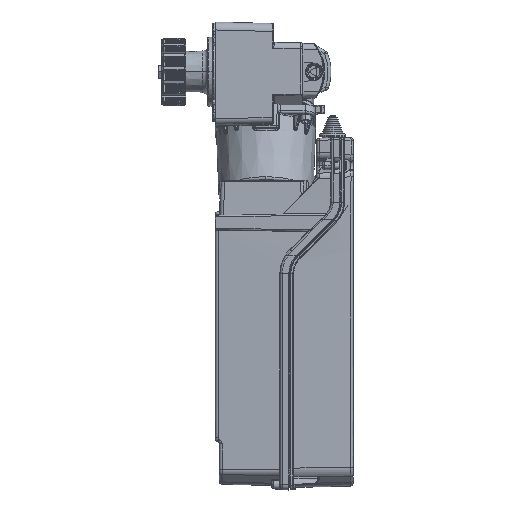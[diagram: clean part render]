
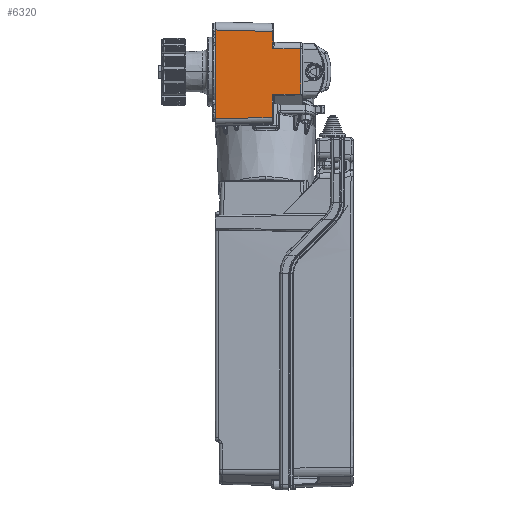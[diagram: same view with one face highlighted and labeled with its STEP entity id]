
A CAD part, left-side view. The second image highlights one B-rep face of the part: STEP entity #6320.
In plain terms, the highlighted planar face has unit normal (-0.999, -0.035, 0).
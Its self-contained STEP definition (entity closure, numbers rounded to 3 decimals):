
#3425 = DIRECTION ( 'NONE',  ( 0., 0., -1. ) ) ;
#5856 = EDGE_CURVE ( 'NONE', #159637, #173403, #78008, .T. ) ;
#6320 = ADVANCED_FACE ( 'NONE', ( #43030 ), #44816, .F. ) ;
#8603 = CARTESIAN_POINT ( 'NONE',  ( -61.471, -58.094, -23.091 ) ) ;
#8610 = EDGE_CURVE ( 'NONE', #105720, #99739, #140917, .T. ) ;
#9991 = VERTEX_POINT ( 'NONE', #177665 ) ;
#10402 = CARTESIAN_POINT ( 'NONE',  ( -61.486, -57.68, -23.576 ) ) ;
#15674 = CARTESIAN_POINT ( 'NONE',  ( -63.5, 0., 60. ) ) ;
#17818 = CARTESIAN_POINT ( 'NONE',  ( -61.416, -59.691, -22.479 ) ) ;
#17853 = VECTOR ( 'NONE', #169090, 1000. ) ;
#18052 = LINE ( 'NONE', #45386, #50853 ) ;
#19988 = DIRECTION ( 'NONE',  ( 0.035, -0.999, -0.026 ) ) ;
#20372 = VERTEX_POINT ( 'NONE', #138675 ) ;
#21433 = CARTESIAN_POINT ( 'NONE',  ( -61.501, -57.235, -25.14 ) ) ;
#23983 = AXIS2_PLACEMENT_3D ( 'NONE', #15674, #100423, #124156 ) ;
#24128 = VECTOR ( 'NONE', #61401, 1000. ) ;
#28882 = DIRECTION ( 'NONE',  ( 0., 0., -1. ) ) ;
#30630 = CARTESIAN_POINT ( 'NONE',  ( -61.42, -59.565, -22.482 ) ) ;
#32301 = LINE ( 'NONE', #102447, #24128 ) ;
#32496 = EDGE_CURVE ( 'NONE', #173403, #160345, #139989, .T. ) ;
#33628 = CARTESIAN_POINT ( 'NONE',  ( -63.5, 0., -46.875 ) ) ;
#34746 = VECTOR ( 'NONE', #19988, 1000. ) ;
#37462 = CARTESIAN_POINT ( 'NONE',  ( -61.416, -59.691, -22.479 ) ) ;
#37540 = CARTESIAN_POINT ( 'NONE',  ( -61.501, -57.235, -46.067 ) ) ;
#37660 = EDGE_CURVE ( 'NONE', #20372, #42325, #32301, .T. ) ;
#42325 = VERTEX_POINT ( 'NONE', #37540 ) ;
#43030 = FACE_OUTER_BOUND ( 'NONE', #178492, .T. ) ;
#44092 = VECTOR ( 'NONE', #119934, 1000. ) ;
#44816 = PLANE ( 'NONE',  #23983 ) ;
#45386 = CARTESIAN_POINT ( 'NONE',  ( -63.5, 0., -80. ) ) ;
#50853 = VECTOR ( 'NONE', #3425, 1000. ) ;
#53933 = EDGE_CURVE ( 'NONE', #160345, #9991, #153380, .T. ) ;
#54062 = EDGE_CURVE ( 'NONE', #9991, #20372, #144671, .T. ) ;
#56331 = EDGE_CURVE ( 'NONE', #42325, #119215, #119476, .T. ) ;
#57616 = EDGE_CURVE ( 'NONE', #82284, #105720, #90158, .T. ) ;
#61401 = DIRECTION ( 'NONE',  ( 0., 0., -1. ) ) ;
#65242 = VECTOR ( 'NONE', #28882, 1000. ) ;
#70767 = CARTESIAN_POINT ( 'NONE',  ( -61.484, -57.717, 60. ) ) ;
#76448 = ORIENTED_EDGE ( 'NONE', *, *, #5856, .F. ) ;
#78008 = LINE ( 'NONE', #133594, #44092 ) ;
#79577 = ORIENTED_EDGE ( 'NONE', *, *, #54062, .F. ) ;
#82284 = VERTEX_POINT ( 'NONE', #118919 ) ;
#89148 = CARTESIAN_POINT ( 'NONE',  ( -60.504, -85.787, -22.356 ) ) ;
#89468 = ORIENTED_EDGE ( 'NONE', *, *, #32496, .F. ) ;
#89779 = CARTESIAN_POINT ( 'NONE',  ( -61.422, -59.503, -22.488 ) ) ;
#90158 = LINE ( 'NONE', #91070, #34746 ) ;
#90344 = CARTESIAN_POINT ( 'NONE',  ( -63.507, 0.199, -46.878 ) ) ;
#91070 = CARTESIAN_POINT ( 'NONE',  ( -63.5, 0., 42.005 ) ) ;
#91584 = CARTESIAN_POINT ( 'NONE',  ( -61.499, -57.292, -24.477 ) ) ;
#98990 = CARTESIAN_POINT ( 'NONE',  ( -60.504, -85.787, -22.356 ) ) ;
#99739 = VERTEX_POINT ( 'NONE', #169572 ) ;
#100423 = DIRECTION ( 'NONE',  ( 0.999, 0.035, 0. ) ) ;
#102447 = CARTESIAN_POINT ( 'NONE',  ( -61.501, -57.235, 60. ) ) ;
#103902 = ORIENTED_EDGE ( 'NONE', *, *, #53933, .F. ) ;
#105720 = VERTEX_POINT ( 'NONE', #155896 ) ;
#109663 = LINE ( 'NONE', #164297, #134135 ) ;
#110986 = ORIENTED_EDGE ( 'NONE', *, *, #151299, .F. ) ;
#111446 = DIRECTION ( 'NONE',  ( 0.035, -0.999, -0.017 ) ) ;
#115338 = CARTESIAN_POINT ( 'NONE',  ( -61.422, -59.503, -22.488 ) ) ;
#118919 = CARTESIAN_POINT ( 'NONE',  ( -63.5, 0., 42.005 ) ) ;
#119215 = VERTEX_POINT ( 'NONE', #33628 ) ;
#119476 = LINE ( 'NONE', #90344, #149186 ) ;
#119934 = DIRECTION ( 'NONE',  ( 0., 0., -1. ) ) ;
#124156 = DIRECTION ( 'NONE',  ( -0.035, 0.999, 0. ) ) ;
#125227 = ORIENTED_EDGE ( 'NONE', *, *, #56331, .F. ) ;
#128379 = ORIENTED_EDGE ( 'NONE', *, *, #157943, .T. ) ;
#133594 = CARTESIAN_POINT ( 'NONE',  ( -60.504, -85.787, 60. ) ) ;
#134135 = VECTOR ( 'NONE', #111446, 1000. ) ;
#135283 = CARTESIAN_POINT ( 'NONE',  ( -61.443, -58.895, -22.602 ) ) ;
#137099 = CARTESIAN_POINT ( 'NONE',  ( -60.504, -85.787, 23.045 ) ) ;
#138675 = CARTESIAN_POINT ( 'NONE',  ( -61.501, -57.235, -25.14 ) ) ;
#139989 = LINE ( 'NONE', #98990, #17853 ) ;
#140314 = ORIENTED_EDGE ( 'NONE', *, *, #37660, .F. ) ;
#140917 = LINE ( 'NONE', #70767, #65242 ) ;
#144671 = B_SPLINE_CURVE_WITH_KNOTS ( 'NONE', 3,
 ( #89779, #176244, #135283, #177132, #8603, #10402, #146251, #91584, #147140, #21433 ),
 .UNSPECIFIED., .F., .F.,
 ( 4, 2, 2, 2, 4 ),
 ( 0., 0.25, 0.5, 0.75, 1. ),
 .UNSPECIFIED. ) ;
#145892 = DIRECTION ( 'NONE',  ( -0.035, 0.999, -0.014 ) ) ;
#146251 = CARTESIAN_POINT ( 'NONE',  ( -61.492, -57.515, -23.861 ) ) ;
#147140 = CARTESIAN_POINT ( 'NONE',  ( -61.501, -57.235, -24.808 ) ) ;
#149082 = ORIENTED_EDGE ( 'NONE', *, *, #57616, .F. ) ;
#149186 = VECTOR ( 'NONE', #145892, 1000. ) ;
#151299 = EDGE_CURVE ( 'NONE', #99739, #159637, #109663, .T. ) ;
#153380 = B_SPLINE_CURVE_WITH_KNOTS ( 'NONE', 3,
 ( #17818, #155414, #30630, #115338 ),
 .UNSPECIFIED., .F., .F.,
 ( 4, 4 ),
 ( 0., 1. ),
 .UNSPECIFIED. ) ;
#155414 = CARTESIAN_POINT ( 'NONE',  ( -61.418, -59.628, -22.479 ) ) ;
#155896 = CARTESIAN_POINT ( 'NONE',  ( -61.484, -57.717, 40.493 ) ) ;
#157943 = EDGE_CURVE ( 'NONE', #82284, #119215, #18052, .T. ) ;
#159637 = VERTEX_POINT ( 'NONE', #137099 ) ;
#160345 = VERTEX_POINT ( 'NONE', #37462 ) ;
#164297 = CARTESIAN_POINT ( 'NONE',  ( -61.484, -57.717, 23.535 ) ) ;
#168696 = ORIENTED_EDGE ( 'NONE', *, *, #8610, .F. ) ;
#169090 = DIRECTION ( 'NONE',  ( -0.035, 0.999, -0.005 ) ) ;
#169572 = CARTESIAN_POINT ( 'NONE',  ( -61.484, -57.717, 23.535 ) ) ;
#173403 = VERTEX_POINT ( 'NONE', #89148 ) ;
#176244 = CARTESIAN_POINT ( 'NONE',  ( -61.433, -59.196, -22.514 ) ) ;
#177132 = CARTESIAN_POINT ( 'NONE',  ( -61.463, -58.344, -22.891 ) ) ;
#177665 = CARTESIAN_POINT ( 'NONE',  ( -61.422, -59.503, -22.488 ) ) ;
#178492 = EDGE_LOOP ( 'NONE', ( #79577, #103902, #89468, #76448, #110986, #168696, #149082, #128379, #125227, #140314 ) ) ;
